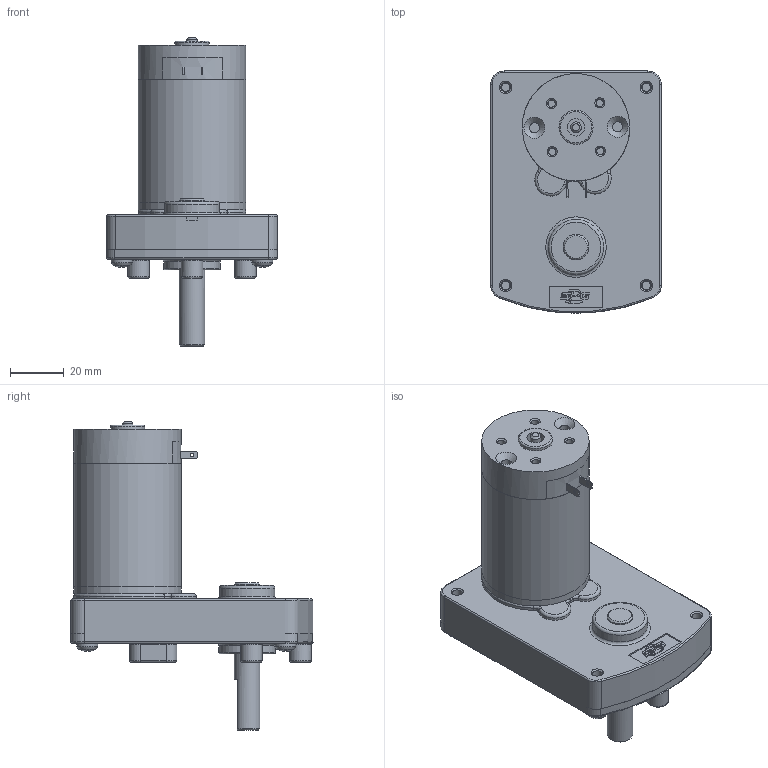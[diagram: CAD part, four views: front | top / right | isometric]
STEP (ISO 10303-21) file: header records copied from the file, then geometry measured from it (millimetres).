
FILE_DESCRIPTION(/* description */ (''),/* implementation_level */ '2;1');
FILE_NAME(/* name */ 'C:\Users\byjeong\Desktop\3D도면\SR44BT.stp',/* time_stamp */ '2015-03-31T15:00:50+09:00',/* author */ ('byjeong'),/* organization */ (''),/* preprocessor_version */ 'ST-DEVELOPER v15.6',/* originating_system */ 'Autodesk Inventor 2015',/* authorisation */ '');
FILE_SCHEMA (('AUTOMOTIVE_DESIGN { 1 0 10303 214 3 1 1 }'));
Length unit declared in the file: millimetre
Products named in the file (9): SR BOX ASSY; RM4TYPE_BRUSH_BRAKET_TERMINAL; RM4TYPE_REAR_HOUSING; REAR_HOUSING__ASS'Y_TERMINAL; RM4TYPE_FRONT_HOUSING_; RM44TYPE_SHAFT; RM4TYPE_PIPE_HOUSING_pi40XL45.9; RM44ㅁBT; 조립품2
Bounding box: 63.5 x 90.14 x 114.87 mm (x, y, z)
Volume: 69384.1 mm3; surface area: 57391 mm2
Topology: 7 solids, 16 shells, 555 faces, 1346 edges, 859 vertices
Faces by surface type: plane 241, cylinder 153, cone 96, torus 60, sphere 4, bspline 1
Full cylindrical faces by diameter (mm): 1.2 x2, 2.5 x1, 2.7 x4, 2.8 x4, 3 x3, 3.4 x7, 3.571 x4, 3.6 x6, 3.7 x2, 3.969 x1, 4 x8, 4.4 x6, 4.45 x1, 5 x1, 6.5 x1, 6.65 x1, 8 x3, 9.525 x2, 9.528 x1, 9.565 x2, 12.7 x3, 14.3 x3, 16.6 x1, 17.6 x1, 20.5 x1, 21 x1, 23 x1, 36.5 x1, 40 x3
Entity records: 16231 total; most frequent: CARTESIAN_POINT 3673, DIRECTION 2689, ORIENTED_EDGE 2312, EDGE_CURVE 1152, AXIS2_PLACEMENT_3D 1106, VERTEX_POINT 820, EDGE_LOOP 794, FACE_OUTER_BOUND 555
